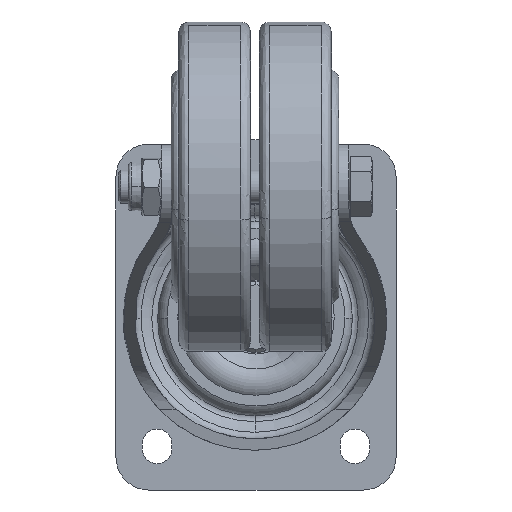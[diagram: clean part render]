
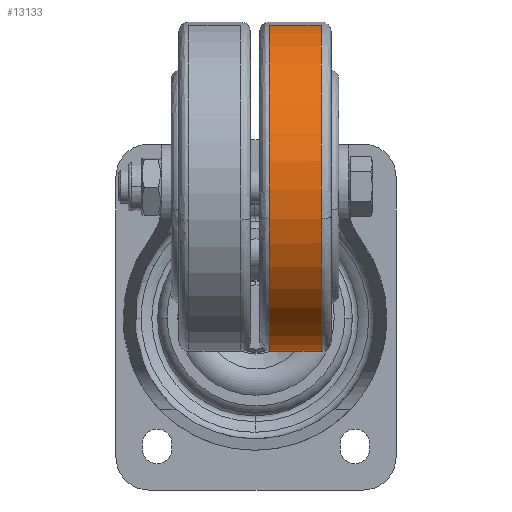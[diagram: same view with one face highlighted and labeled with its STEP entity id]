
A CAD part, front view. The second image highlights one B-rep face of the part: STEP entity #13133.
In plain terms, the highlighted cylindrical face has radius 50 mm (diameter 100 mm), a partial arc.
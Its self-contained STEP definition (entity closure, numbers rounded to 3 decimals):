
#143 = AXIS2_PLACEMENT_3D ( 'NONE', #32973, #22449, #26174 ) ;
#893 = CARTESIAN_POINT ( 'NONE',  ( 29.042, -25.61, 166.363 ) ) ;
#1110 = DIRECTION ( 'NONE',  ( 1., 0., 0. ) ) ;
#1174 = CARTESIAN_POINT ( 'NONE',  ( 29.042, -75.295, 160.757 ) ) ;
#1830 = VERTEX_POINT ( 'NONE', #1174 ) ;
#1993 = VERTEX_POINT ( 'NONE', #8127 ) ;
#2175 = CARTESIAN_POINT ( 'NONE',  ( 29.042, -19.785, 116.704 ) ) ;
#2268 = DIRECTION ( 'NONE',  ( 1., 0., 0. ) ) ;
#3045 = LINE ( 'NONE', #36905, #25773 ) ;
#3174 = VERTEX_POINT ( 'NONE', #30851 ) ;
#3692 = AXIS2_PLACEMENT_3D ( 'NONE', #32358, #2268, #19650 ) ;
#4269 = ORIENTED_EDGE ( 'NONE', *, *, #40719, .T. ) ;
#4450 = VERTEX_POINT ( 'NONE', #2175 ) ;
#8052 = CARTESIAN_POINT ( 'NONE',  ( 44.753, -25.61, 166.363 ) ) ;
#8127 = CARTESIAN_POINT ( 'NONE',  ( 44.753, -31.436, 216.023 ) ) ;
#8316 = AXIS2_PLACEMENT_3D ( 'NONE', #8052, #21685, #34643 ) ;
#9553 = EDGE_CURVE ( 'NONE', #29977, #1993, #31005, .T. ) ;
#11028 = VERTEX_POINT ( 'NONE', #40509 ) ;
#11643 = EDGE_CURVE ( 'NONE', #1830, #4450, #17598, .T. ) ;
#12662 = AXIS2_PLACEMENT_3D ( 'NONE', #893, #1110, #27483 ) ;
#12910 = EDGE_LOOP ( 'NONE', ( #4269, #31961, #30625, #14194, #20398, #17731 ) ) ;
#13133 = ADVANCED_FACE ( 'NONE', ( #19614 ), #16740, .T. ) ;
#14194 = ORIENTED_EDGE ( 'NONE', *, *, #32593, .T. ) ;
#16018 = CIRCLE ( 'NONE', #8316, 50. ) ;
#16298 = CARTESIAN_POINT ( 'NONE',  ( 48.997, -25.61, 166.363 ) ) ;
#16740 = CYLINDRICAL_SURFACE ( 'NONE', #38056, 50. ) ;
#17598 = CIRCLE ( 'NONE', #12662, 50. ) ;
#17731 = ORIENTED_EDGE ( 'NONE', *, *, #26837, .F. ) ;
#19275 = LINE ( 'NONE', #35753, #32920 ) ;
#19486 = DIRECTION ( 'NONE',  ( -1., 0., 0. ) ) ;
#19614 = FACE_OUTER_BOUND ( 'NONE', #12910, .T. ) ;
#19650 = DIRECTION ( 'NONE',  ( 0., 0.117, -0.993 ) ) ;
#20398 = ORIENTED_EDGE ( 'NONE', *, *, #11643, .T. ) ;
#21685 = DIRECTION ( 'NONE',  ( -1., 0., 0. ) ) ;
#22449 = DIRECTION ( 'NONE',  ( -1., 0., 0. ) ) ;
#22634 = CIRCLE ( 'NONE', #3692, 50. ) ;
#23480 = DIRECTION ( 'NONE',  ( -1., 0., 0. ) ) ;
#24489 = CARTESIAN_POINT ( 'NONE',  ( 44.753, -75.297, 160.773 ) ) ;
#25773 = VECTOR ( 'NONE', #23480, 1000. ) ;
#26174 = DIRECTION ( 'NONE',  ( 0., 0.117, -0.993 ) ) ;
#26837 = EDGE_CURVE ( 'NONE', #3174, #4450, #3045, .T. ) ;
#27483 = DIRECTION ( 'NONE',  ( 0., 0.117, -0.993 ) ) ;
#29977 = VERTEX_POINT ( 'NONE', #24489 ) ;
#30127 = DIRECTION ( 'NONE',  ( -1., 0., 0. ) ) ;
#30625 = ORIENTED_EDGE ( 'NONE', *, *, #41527, .T. ) ;
#30851 = CARTESIAN_POINT ( 'NONE',  ( 44.753, -19.785, 116.704 ) ) ;
#31005 = CIRCLE ( 'NONE', #143, 50. ) ;
#31961 = ORIENTED_EDGE ( 'NONE', *, *, #9553, .T. ) ;
#32358 = CARTESIAN_POINT ( 'NONE',  ( 29.042, -25.61, 166.363 ) ) ;
#32593 = EDGE_CURVE ( 'NONE', #11028, #1830, #22634, .T. ) ;
#32920 = VECTOR ( 'NONE', #19486, 1000. ) ;
#32973 = CARTESIAN_POINT ( 'NONE',  ( 44.753, -25.61, 166.363 ) ) ;
#34643 = DIRECTION ( 'NONE',  ( 0., 0.117, -0.993 ) ) ;
#35753 = CARTESIAN_POINT ( 'NONE',  ( 48.997, -31.436, 216.023 ) ) ;
#36905 = CARTESIAN_POINT ( 'NONE',  ( 48.997, -19.785, 116.704 ) ) ;
#38056 = AXIS2_PLACEMENT_3D ( 'NONE', #16298, #30127, #39608 ) ;
#39608 = DIRECTION ( 'NONE',  ( 0., 0.117, -0.993 ) ) ;
#40509 = CARTESIAN_POINT ( 'NONE',  ( 29.042, -31.436, 216.023 ) ) ;
#40719 = EDGE_CURVE ( 'NONE', #3174, #29977, #16018, .T. ) ;
#41527 = EDGE_CURVE ( 'NONE', #1993, #11028, #19275, .T. ) ;
